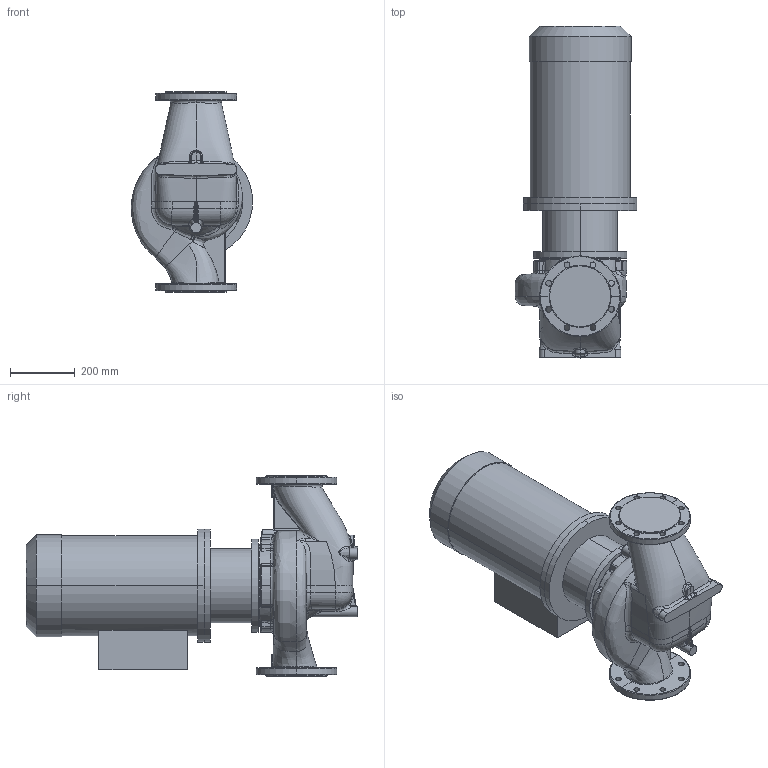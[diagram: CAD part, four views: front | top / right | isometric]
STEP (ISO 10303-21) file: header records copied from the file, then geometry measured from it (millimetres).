
FILE_DESCRIPTION (( 'STEP AP203' ), '1' );
FILE_NAME ('KRL 125-160-2-18,5.STEP', '2026-04-03T11:54:44', ( '' ), ( '' ), 'SwSTEP 2.0', 'SolidWorks 2016', '' );
FILE_SCHEMA (( 'CONFIG_CONTROL_DESIGN' ));
Length unit declared in the file: millimetre
Products named in the file (1): KRL 125-160-2-18,5
Bounding box: 375.27 x 1025.8 x 620 mm (x, y, z)
Volume: 82299040.8 mm3; surface area: 2093446.6 mm2
Topology: 4 solids, 4 shells, 621 faces, 1533 edges, 923 vertices
Faces by surface type: bspline 289, cylinder 158, plane 89, torus 41, cone 32, sphere 12
Entity records: 61531 total; most frequent: CARTESIAN_POINT 49341, ORIENTED_EDGE 3038, DIRECTION 1831, EDGE_CURVE 1519, VERTEX_POINT 923, AXIS2_PLACEMENT_3D 783, B_SPLINE_CURVE_WITH_KNOTS 717, EDGE_LOOP 670
